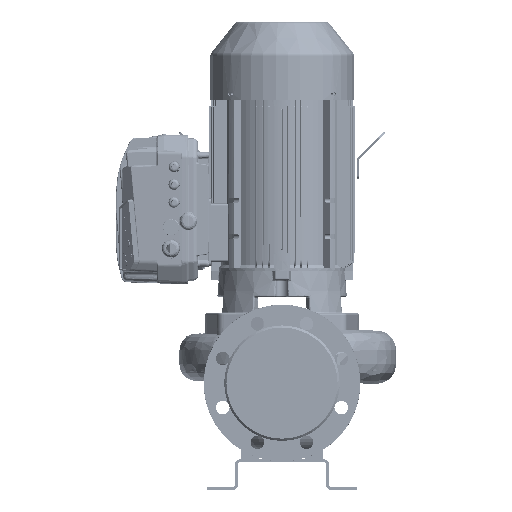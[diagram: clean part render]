
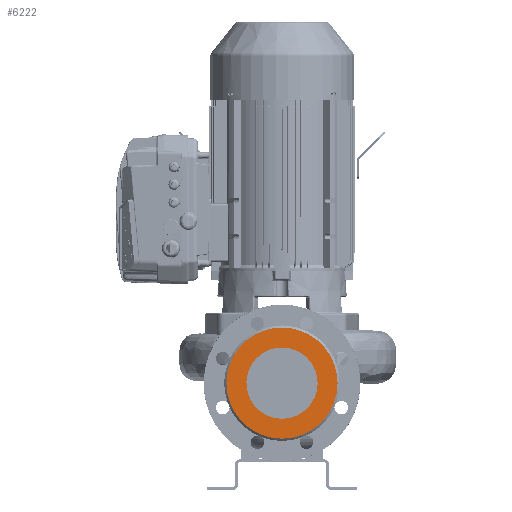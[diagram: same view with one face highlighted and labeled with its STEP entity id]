
A CAD part, front view. The second image highlights one B-rep face of the part: STEP entity #6222.
In plain terms, the highlighted planar face has unit normal (0, -1, 0) as drawn and (0, 1, 0) by its records, which use the part's own axes.
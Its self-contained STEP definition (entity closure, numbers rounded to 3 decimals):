
#6222=ADVANCED_FACE('',(#16198,#16199),#16200,.T.);
#6618=EDGE_CURVE('',#16871,#16872,#16873,.T.);
#6680=EDGE_CURVE('',#16983,#16984,#16985,.T.);
#6876=EDGE_CURVE('',#16984,#16983,#17272,.T.);
#6952=EDGE_CURVE('',#16872,#16871,#17358,.T.);
#16198=FACE_BOUND('',#34238,.T.);
#16199=FACE_OUTER_BOUND('',#34239,.T.);
#16200=PLANE('',#34240);
#16871=VERTEX_POINT('',#37513);
#16872=VERTEX_POINT('',#37514);
#16873=CIRCLE('',#37515,78.);
#16983=VERTEX_POINT('',#37693);
#16984=VERTEX_POINT('',#37694);
#16985=CIRCLE('',#37695,50.);
#17272=CIRCLE('',#38198,50.);
#17358=CIRCLE('',#38379,78.);
#34238=EDGE_LOOP('',(#108075,#108076));
#34239=EDGE_LOOP('',(#108077,#108078));
#34240=AXIS2_PLACEMENT_3D('',#108079,#108080,#108081);
#37513=CARTESIAN_POINT('',(0.,225.,-114.5));
#37514=CARTESIAN_POINT('',(0.,225.,41.5));
#37515=AXIS2_PLACEMENT_3D('',#110800,#110801,#110802);
#37693=CARTESIAN_POINT('',(19.004,225.,-82.748));
#37694=CARTESIAN_POINT('',(-19.004,225.,9.748));
#37695=AXIS2_PLACEMENT_3D('',#110879,#110880,#110881);
#38198=AXIS2_PLACEMENT_3D('',#111129,#111130,#111131);
#38379=AXIS2_PLACEMENT_3D('',#111226,#111227,#111228);
#108075=ORIENTED_EDGE('',*,*,#6680,.T.);
#108076=ORIENTED_EDGE('',*,*,#6876,.T.);
#108077=ORIENTED_EDGE('',*,*,#6618,.F.);
#108078=ORIENTED_EDGE('',*,*,#6952,.F.);
#108079=CARTESIAN_POINT('',(53.194,225.,-4.65));
#108080=DIRECTION('',(0.0,1.0,0.0));
#108081=DIRECTION('',(0.0,0.0,1.0));
#110800=CARTESIAN_POINT('',(0.,225.,-36.5));
#110801=DIRECTION('',(0.0,-1.0,0.0));
#110802=DIRECTION('',(0.,0.0,-1.0));
#110879=CARTESIAN_POINT('',(0.0,225.,-36.5));
#110880=DIRECTION('',(0.0,-1.0,0.0));
#110881=DIRECTION('',(0.38,0.0,-0.925));
#111129=CARTESIAN_POINT('',(0.0,225.,-36.5));
#111130=DIRECTION('',(0.0,-1.0,0.0));
#111131=DIRECTION('',(0.38,0.0,-0.925));
#111226=CARTESIAN_POINT('',(0.,225.,-36.5));
#111227=DIRECTION('',(0.0,-1.0,0.0));
#111228=DIRECTION('',(0.,0.0,-1.0));
